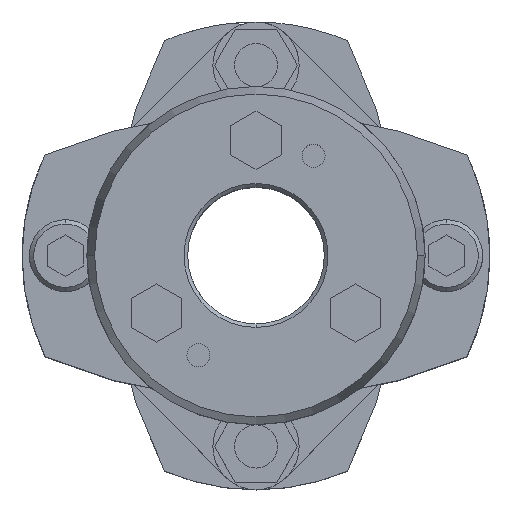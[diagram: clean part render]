
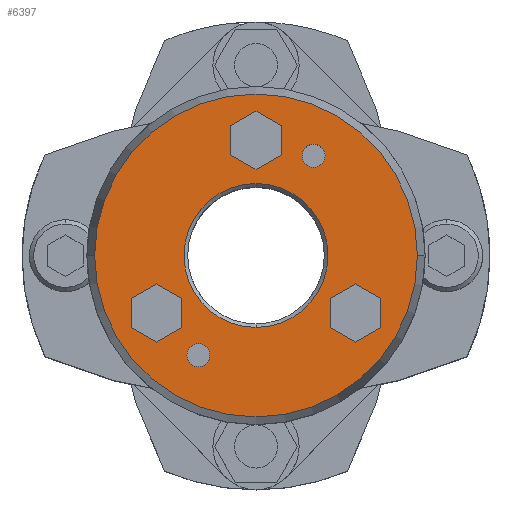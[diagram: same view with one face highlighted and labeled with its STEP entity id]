
A CAD part, top view. The second image highlights one B-rep face of the part: STEP entity #6397.
In plain terms, the highlighted planar face has unit normal (0, 0, 1).
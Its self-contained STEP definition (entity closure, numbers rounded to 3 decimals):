
#1593=CARTESIAN_POINT('',(-22.428,0.,40.0));
#1594=VERTEX_POINT('',#1593);
#1603=CARTESIAN_POINT('',(22.428,0.,40.0));
#1604=VERTEX_POINT('',#1603);
#1605=CARTESIAN_POINT('',(0.,0.,40.0));
#1606=DIRECTION('',(0.0,0.0,-1.0));
#1607=DIRECTION('',(-1.0,0.0,0.0));
#1608=AXIS2_PLACEMENT_3D('',#1605,#1606,#1607);
#1609=CIRCLE('',#1608,22.428);
#1610=EDGE_CURVE('',#1594,#1604,#1609,.T.);
#1637=CARTESIAN_POINT('',(0.,10.,40.0));
#1638=VERTEX_POINT('',#1637);
#1654=CARTESIAN_POINT('',(0.,-10.,40.0));
#1655=VERTEX_POINT('',#1654);
#1662=CARTESIAN_POINT('',(0.,0.,40.0));
#1663=DIRECTION('',(0.0,0.0,1.0));
#1664=DIRECTION('',(0.0,1.0,0.0));
#1665=AXIS2_PLACEMENT_3D('',#1662,#1663,#1664);
#1666=CIRCLE('',#1665,10.0);
#1667=EDGE_CURVE('',#1655,#1638,#1666,.T.);
#2075=CARTESIAN_POINT('',(8.,15.456,40.0));
#2076=VERTEX_POINT('',#2075);
#2092=CARTESIAN_POINT('',(8.,12.256,40.0));
#2093=VERTEX_POINT('',#2092);
#2100=CARTESIAN_POINT('',(8.,13.856,40.0));
#2101=DIRECTION('',(0.0,0.0,-1.0));
#2102=DIRECTION('',(0.0,1.0,0.0));
#2103=AXIS2_PLACEMENT_3D('',#2100,#2101,#2102);
#2104=CIRCLE('',#2103,1.6);
#2105=EDGE_CURVE('',#2076,#2093,#2104,.T.);
#2117=CARTESIAN_POINT('',(-8.,-12.256,40.0));
#2118=VERTEX_POINT('',#2117);
#2134=CARTESIAN_POINT('',(-8.,-15.456,40.0));
#2135=VERTEX_POINT('',#2134);
#2142=CARTESIAN_POINT('',(-8.,-13.856,40.0));
#2143=DIRECTION('',(0.0,0.0,-1.0));
#2144=DIRECTION('',(0.0,1.0,0.0));
#2145=AXIS2_PLACEMENT_3D('',#2142,#2143,#2144);
#2146=CIRCLE('',#2145,1.6);
#2147=EDGE_CURVE('',#2118,#2135,#2146,.T.);
#4759=CARTESIAN_POINT('',(0.,20.041,40.0));
#4760=VERTEX_POINT('',#4759);
#4767=CARTESIAN_POINT('',(-3.5,18.021,40.0));
#4768=VERTEX_POINT('',#4767);
#4769=CARTESIAN_POINT('',(-3.5,18.021,40.0));
#4770=DIRECTION('',(0.866,0.5,0.0));
#4771=VECTOR('',#4770,4.041);
#4772=LINE('',#4769,#4771);
#4773=EDGE_CURVE('',#4768,#4760,#4772,.T.);
#4797=CARTESIAN_POINT('',(3.5,18.021,40.0));
#4798=VERTEX_POINT('',#4797);
#4805=CARTESIAN_POINT('',(0.,20.041,40.0));
#4806=DIRECTION('',(0.866,-0.5,0.0));
#4807=VECTOR('',#4806,4.041);
#4808=LINE('',#4805,#4807);
#4809=EDGE_CURVE('',#4760,#4798,#4808,.T.);
#4828=CARTESIAN_POINT('',(3.5,13.979,40.0));
#4829=VERTEX_POINT('',#4828);
#4836=CARTESIAN_POINT('',(3.5,18.021,40.0));
#4837=DIRECTION('',(0.0,-1.0,0.0));
#4838=VECTOR('',#4837,4.041);
#4839=LINE('',#4836,#4838);
#4840=EDGE_CURVE('',#4798,#4829,#4839,.T.);
#4859=CARTESIAN_POINT('',(0.,11.959,40.0));
#4860=VERTEX_POINT('',#4859);
#4867=CARTESIAN_POINT('',(3.5,13.979,40.0));
#4868=DIRECTION('',(-0.866,-0.5,0.0));
#4869=VECTOR('',#4868,4.041);
#4870=LINE('',#4867,#4869);
#4871=EDGE_CURVE('',#4829,#4860,#4870,.T.);
#4890=CARTESIAN_POINT('',(-3.5,13.979,40.0));
#4891=VERTEX_POINT('',#4890);
#4898=CARTESIAN_POINT('',(0.,11.959,40.0));
#4899=DIRECTION('',(-0.866,0.5,0.0));
#4900=VECTOR('',#4899,4.041);
#4901=LINE('',#4898,#4900);
#4902=EDGE_CURVE('',#4860,#4891,#4901,.T.);
#4920=CARTESIAN_POINT('',(-3.5,13.979,40.0));
#4921=DIRECTION('',(0.0,1.0,0.0));
#4922=VECTOR('',#4921,4.041);
#4923=LINE('',#4920,#4922);
#4924=EDGE_CURVE('',#4891,#4768,#4923,.T.);
#4959=CARTESIAN_POINT('',(13.856,-3.959,40.0));
#4960=VERTEX_POINT('',#4959);
#4967=CARTESIAN_POINT('',(10.356,-5.979,40.0));
#4968=VERTEX_POINT('',#4967);
#4969=CARTESIAN_POINT('',(10.356,-5.979,40.0));
#4970=DIRECTION('',(0.866,0.5,0.0));
#4971=VECTOR('',#4970,4.041);
#4972=LINE('',#4969,#4971);
#4973=EDGE_CURVE('',#4968,#4960,#4972,.T.);
#4997=CARTESIAN_POINT('',(17.356,-5.979,40.0));
#4998=VERTEX_POINT('',#4997);
#5005=CARTESIAN_POINT('',(13.856,-3.959,40.0));
#5006=DIRECTION('',(0.866,-0.5,0.0));
#5007=VECTOR('',#5006,4.041);
#5008=LINE('',#5005,#5007);
#5009=EDGE_CURVE('',#4960,#4998,#5008,.T.);
#5028=CARTESIAN_POINT('',(17.356,-10.021,40.0));
#5029=VERTEX_POINT('',#5028);
#5036=CARTESIAN_POINT('',(17.356,-5.979,40.0));
#5037=DIRECTION('',(0.0,-1.0,0.0));
#5038=VECTOR('',#5037,4.041);
#5039=LINE('',#5036,#5038);
#5040=EDGE_CURVE('',#4998,#5029,#5039,.T.);
#5059=CARTESIAN_POINT('',(13.856,-12.041,40.0));
#5060=VERTEX_POINT('',#5059);
#5067=CARTESIAN_POINT('',(17.356,-10.021,40.0));
#5068=DIRECTION('',(-0.866,-0.5,0.0));
#5069=VECTOR('',#5068,4.041);
#5070=LINE('',#5067,#5069);
#5071=EDGE_CURVE('',#5029,#5060,#5070,.T.);
#5090=CARTESIAN_POINT('',(10.356,-10.021,40.0));
#5091=VERTEX_POINT('',#5090);
#5098=CARTESIAN_POINT('',(13.856,-12.041,40.0));
#5099=DIRECTION('',(-0.866,0.5,0.0));
#5100=VECTOR('',#5099,4.041);
#5101=LINE('',#5098,#5100);
#5102=EDGE_CURVE('',#5060,#5091,#5101,.T.);
#5120=CARTESIAN_POINT('',(10.356,-10.021,40.0));
#5121=DIRECTION('',(0.0,1.0,0.0));
#5122=VECTOR('',#5121,4.041);
#5123=LINE('',#5120,#5122);
#5124=EDGE_CURVE('',#5091,#4968,#5123,.T.);
#5159=CARTESIAN_POINT('',(-13.856,-3.959,40.0));
#5160=VERTEX_POINT('',#5159);
#5167=CARTESIAN_POINT('',(-17.356,-5.979,40.0));
#5168=VERTEX_POINT('',#5167);
#5169=CARTESIAN_POINT('',(-17.356,-5.979,40.0));
#5170=DIRECTION('',(0.866,0.5,0.0));
#5171=VECTOR('',#5170,4.041);
#5172=LINE('',#5169,#5171);
#5173=EDGE_CURVE('',#5168,#5160,#5172,.T.);
#5197=CARTESIAN_POINT('',(-10.356,-5.979,40.0));
#5198=VERTEX_POINT('',#5197);
#5205=CARTESIAN_POINT('',(-13.856,-3.959,40.0));
#5206=DIRECTION('',(0.866,-0.5,0.0));
#5207=VECTOR('',#5206,4.041);
#5208=LINE('',#5205,#5207);
#5209=EDGE_CURVE('',#5160,#5198,#5208,.T.);
#5228=CARTESIAN_POINT('',(-10.356,-10.021,40.0));
#5229=VERTEX_POINT('',#5228);
#5236=CARTESIAN_POINT('',(-10.356,-5.979,40.0));
#5237=DIRECTION('',(0.0,-1.0,0.0));
#5238=VECTOR('',#5237,4.041);
#5239=LINE('',#5236,#5238);
#5240=EDGE_CURVE('',#5198,#5229,#5239,.T.);
#5259=CARTESIAN_POINT('',(-13.856,-12.041,40.0));
#5260=VERTEX_POINT('',#5259);
#5267=CARTESIAN_POINT('',(-10.356,-10.021,40.0));
#5268=DIRECTION('',(-0.866,-0.5,0.0));
#5269=VECTOR('',#5268,4.041);
#5270=LINE('',#5267,#5269);
#5271=EDGE_CURVE('',#5229,#5260,#5270,.T.);
#5290=CARTESIAN_POINT('',(-17.356,-10.021,40.0));
#5291=VERTEX_POINT('',#5290);
#5298=CARTESIAN_POINT('',(-13.856,-12.041,40.0));
#5299=DIRECTION('',(-0.866,0.5,0.0));
#5300=VECTOR('',#5299,4.041);
#5301=LINE('',#5298,#5300);
#5302=EDGE_CURVE('',#5260,#5291,#5301,.T.);
#5320=CARTESIAN_POINT('',(-17.356,-10.021,40.0));
#5321=DIRECTION('',(0.0,1.0,0.0));
#5322=VECTOR('',#5321,4.041);
#5323=LINE('',#5320,#5322);
#5324=EDGE_CURVE('',#5291,#5168,#5323,.T.);
#5350=CARTESIAN_POINT('',(-8.,-13.856,40.0));
#5351=DIRECTION('',(0.0,0.0,-1.0));
#5352=DIRECTION('',(0.0,1.0,0.0));
#5353=AXIS2_PLACEMENT_3D('',#5350,#5351,#5352);
#5354=CIRCLE('',#5353,1.6);
#5355=EDGE_CURVE('',#2135,#2118,#5354,.T.);
#5384=CARTESIAN_POINT('',(8.,13.856,40.0));
#5385=DIRECTION('',(0.0,0.0,-1.0));
#5386=DIRECTION('',(0.0,1.0,0.0));
#5387=AXIS2_PLACEMENT_3D('',#5384,#5385,#5386);
#5388=CIRCLE('',#5387,1.6);
#5389=EDGE_CURVE('',#2093,#2076,#5388,.T.);
#6334=CARTESIAN_POINT('',(0.,0.,40.0));
#6335=DIRECTION('',(0.0,0.0,1.0));
#6336=DIRECTION('',(0.0,1.0,0.0));
#6337=AXIS2_PLACEMENT_3D('',#6334,#6335,#6336);
#6338=CIRCLE('',#6337,10.0);
#6339=EDGE_CURVE('',#1638,#1655,#6338,.T.);
#6346=CARTESIAN_POINT('',(-9.964,0.,40.0));
#6347=DIRECTION('',(0.0,0.0,1.0));
#6348=DIRECTION('',(0.0,1.0,0.0));
#6349=AXIS2_PLACEMENT_3D('',#6346,#6347,#6348);
#6350=PLANE('',#6349);
#6351=ORIENTED_EDGE('',*,*,#1610,.F.);
#6352=CARTESIAN_POINT('',(0.,0.,40.0));
#6353=DIRECTION('',(0.0,0.0,-1.0));
#6354=DIRECTION('',(-1.0,0.0,0.0));
#6355=AXIS2_PLACEMENT_3D('',#6352,#6353,#6354);
#6356=CIRCLE('',#6355,22.428);
#6357=EDGE_CURVE('',#1604,#1594,#6356,.T.);
#6358=ORIENTED_EDGE('',*,*,#6357,.F.);
#6359=EDGE_LOOP('',(#6351,#6358));
#6360=FACE_OUTER_BOUND('',#6359,.T.);
#6361=ORIENTED_EDGE('',*,*,#4773,.T.);
#6362=ORIENTED_EDGE('',*,*,#4809,.T.);
#6363=ORIENTED_EDGE('',*,*,#4840,.T.);
#6364=ORIENTED_EDGE('',*,*,#4871,.T.);
#6365=ORIENTED_EDGE('',*,*,#4902,.T.);
#6366=ORIENTED_EDGE('',*,*,#4924,.T.);
#6367=EDGE_LOOP('',(#6361,#6362,#6363,#6364,#6365,#6366));
#6368=FACE_BOUND('',#6367,.T.);
#6369=ORIENTED_EDGE('',*,*,#4973,.T.);
#6370=ORIENTED_EDGE('',*,*,#5009,.T.);
#6371=ORIENTED_EDGE('',*,*,#5040,.T.);
#6372=ORIENTED_EDGE('',*,*,#5071,.T.);
#6373=ORIENTED_EDGE('',*,*,#5102,.T.);
#6374=ORIENTED_EDGE('',*,*,#5124,.T.);
#6375=EDGE_LOOP('',(#6369,#6370,#6371,#6372,#6373,#6374));
#6376=FACE_BOUND('',#6375,.T.);
#6377=ORIENTED_EDGE('',*,*,#5173,.T.);
#6378=ORIENTED_EDGE('',*,*,#5209,.T.);
#6379=ORIENTED_EDGE('',*,*,#5240,.T.);
#6380=ORIENTED_EDGE('',*,*,#5271,.T.);
#6381=ORIENTED_EDGE('',*,*,#5302,.T.);
#6382=ORIENTED_EDGE('',*,*,#5324,.T.);
#6383=EDGE_LOOP('',(#6377,#6378,#6379,#6380,#6381,#6382));
#6384=FACE_BOUND('',#6383,.T.);
#6385=ORIENTED_EDGE('',*,*,#2147,.T.);
#6386=ORIENTED_EDGE('',*,*,#5355,.T.);
#6387=EDGE_LOOP('',(#6385,#6386));
#6388=FACE_BOUND('',#6387,.T.);
#6389=ORIENTED_EDGE('',*,*,#2105,.T.);
#6390=ORIENTED_EDGE('',*,*,#5389,.T.);
#6391=EDGE_LOOP('',(#6389,#6390));
#6392=FACE_BOUND('',#6391,.T.);
#6393=ORIENTED_EDGE('',*,*,#1667,.F.);
#6394=ORIENTED_EDGE('',*,*,#6339,.F.);
#6395=EDGE_LOOP('',(#6393,#6394));
#6396=FACE_BOUND('',#6395,.T.);
#6397=ADVANCED_FACE('',(#6360,#6368,#6376,#6384,#6388,#6392,#6396),#6350,.T.);
